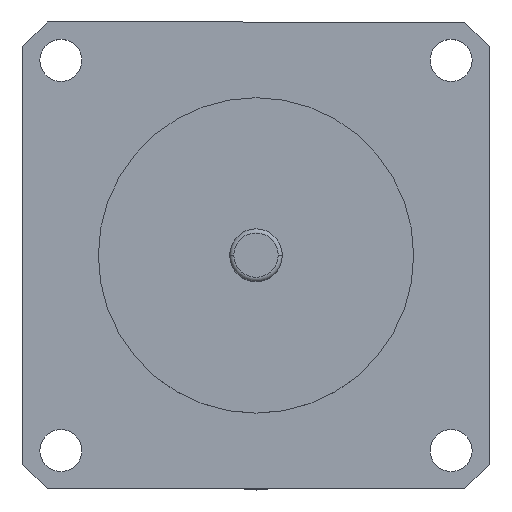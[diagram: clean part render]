
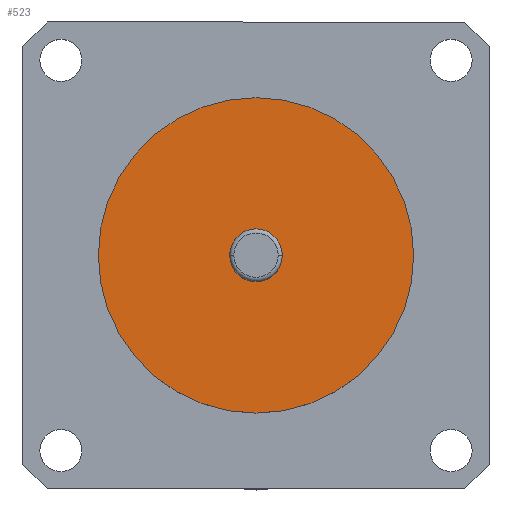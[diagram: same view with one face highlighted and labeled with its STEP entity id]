
A CAD part, top view. The second image highlights one B-rep face of the part: STEP entity #523.
In plain terms, the highlighted planar face has unit normal (0, 0, 1).
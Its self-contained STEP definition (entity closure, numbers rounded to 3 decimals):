
#13 = DIRECTION ( 'NONE',  ( 0., 0., 1. ) ) ;
#24 = AXIS2_PLACEMENT_3D ( 'NONE', #71, #1223, #268 ) ;
#31 = ORIENTED_EDGE ( 'NONE', *, *, #980, .T. ) ;
#71 = CARTESIAN_POINT ( 'NONE',  ( 0., 0., 1.5 ) ) ;
#101 = CIRCLE ( 'NONE', #917, 19.05 ) ;
#182 = CARTESIAN_POINT ( 'NONE',  ( 3.175, 0., 1.5 ) ) ;
#185 = DIRECTION ( 'NONE',  ( 0., 0., -1. ) ) ;
#199 = CARTESIAN_POINT ( 'NONE',  ( 0., 0., 1.5 ) ) ;
#220 = EDGE_LOOP ( 'NONE', ( #31, #1253 ) ) ;
#241 = CARTESIAN_POINT ( 'NONE',  ( -3.175, 0., 1.5 ) ) ;
#245 = FACE_OUTER_BOUND ( 'NONE', #585, .T. ) ;
#268 = DIRECTION ( 'NONE',  ( 1., 0., 0. ) ) ;
#299 = DIRECTION ( 'NONE',  ( 1., 0., 0. ) ) ;
#370 = DIRECTION ( 'NONE',  ( 0., 0., -1. ) ) ;
#439 = VERTEX_POINT ( 'NONE', #182 ) ;
#523 = ADVANCED_FACE ( 'NONE', ( #245, #725 ), #838, .T. ) ;
#571 = CIRCLE ( 'NONE', #1082, 3.175 ) ;
#585 = EDGE_LOOP ( 'NONE', ( #934, #639 ) ) ;
#600 = CARTESIAN_POINT ( 'NONE',  ( 0., 0., 1.5 ) ) ;
#639 = ORIENTED_EDGE ( 'NONE', *, *, #1076, .T. ) ;
#682 = VERTEX_POINT ( 'NONE', #903 ) ;
#697 = DIRECTION ( 'NONE',  ( 1., 0., 0. ) ) ;
#725 = FACE_BOUND ( 'NONE', #220, .T. ) ;
#749 = EDGE_CURVE ( 'NONE', #682, #811, #1185, .T. ) ;
#766 = CARTESIAN_POINT ( 'NONE',  ( 0., 0., 1.5 ) ) ;
#768 = CIRCLE ( 'NONE', #1210, 3.175 ) ;
#811 = VERTEX_POINT ( 'NONE', #822 ) ;
#822 = CARTESIAN_POINT ( 'NONE',  ( 19.05, 0., 1.5 ) ) ;
#838 = PLANE ( 'NONE',  #24 ) ;
#853 = DIRECTION ( 'NONE',  ( 1., 0., 0. ) ) ;
#869 = DIRECTION ( 'NONE',  ( 0., 0., 1. ) ) ;
#903 = CARTESIAN_POINT ( 'NONE',  ( -19.05, 0., 1.5 ) ) ;
#917 = AXIS2_PLACEMENT_3D ( 'NONE', #199, #869, #299 ) ;
#926 = EDGE_CURVE ( 'NONE', #439, #957, #571, .T. ) ;
#934 = ORIENTED_EDGE ( 'NONE', *, *, #749, .T. ) ;
#939 = CARTESIAN_POINT ( 'NONE',  ( 0., 0., 1.5 ) ) ;
#957 = VERTEX_POINT ( 'NONE', #241 ) ;
#980 = EDGE_CURVE ( 'NONE', #957, #439, #768, .T. ) ;
#1044 = DIRECTION ( 'NONE',  ( 1., 0., 0. ) ) ;
#1076 = EDGE_CURVE ( 'NONE', #811, #682, #101, .T. ) ;
#1079 = AXIS2_PLACEMENT_3D ( 'NONE', #600, #13, #697 ) ;
#1082 = AXIS2_PLACEMENT_3D ( 'NONE', #939, #370, #1044 ) ;
#1185 = CIRCLE ( 'NONE', #1079, 19.05 ) ;
#1210 = AXIS2_PLACEMENT_3D ( 'NONE', #766, #185, #853 ) ;
#1223 = DIRECTION ( 'NONE',  ( 0., 0., 1. ) ) ;
#1253 = ORIENTED_EDGE ( 'NONE', *, *, #926, .T. ) ;
